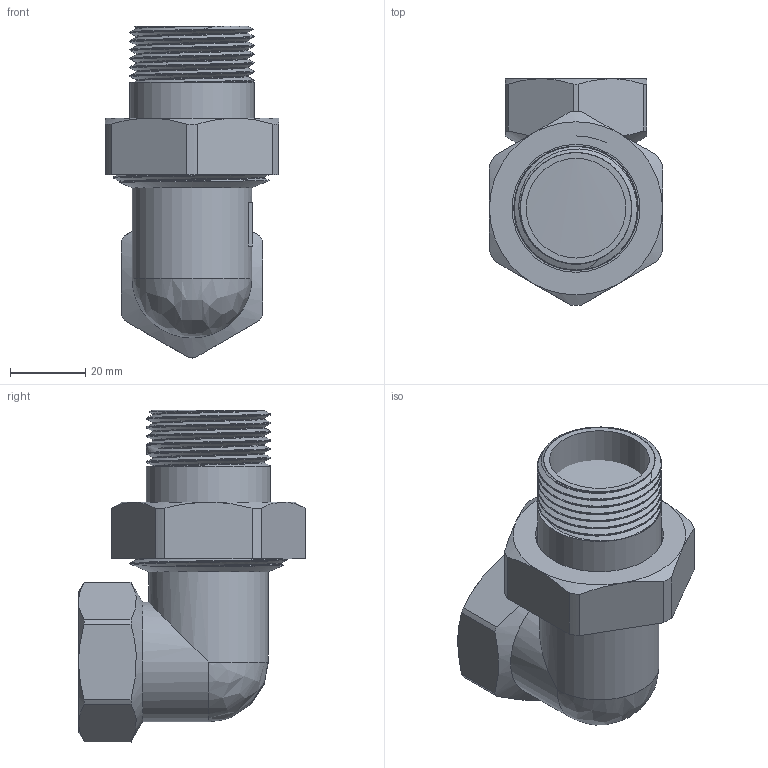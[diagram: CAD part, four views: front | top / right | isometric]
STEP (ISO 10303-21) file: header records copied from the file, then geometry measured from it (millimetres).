
FILE_DESCRIPTION(/* description */ (''),/* implementation_level */ '2;1');
FILE_NAME(/* name */ 'C:\Users\Doom\Desktop\Фадотех\Резьба\SC13 18.03.2020\SC13 18.03.2020.stp',/* time_stamp */ '2022-01-16T20:01:27+02:00',/* author */ ('Doom'),/* organization */ (''),/* preprocessor_version */ 'ST-DEVELOPER v18',/* originating_system */ 'Autodesk Inventor 2020',/* authorisation */ '');
FILE_SCHEMA (('AUTOMOTIVE_DESIGN { 1 0 10303 214 3 1 1 }'));
Length unit declared in the file: millimetre
Products named in the file (4): SC13 18.03.2020; SC12-1; SСОЗ-2; SСОЗ-3
Assembly tree (3 placements, depth 2):
  SC13 18.03.2020
    SC12-1
    SСОЗ-2
    SСОЗ-3
Bounding box: 46 x 60.25 x 88.25 mm (x, y, z)
Volume: 46540.8 mm3; surface area: 38008.2 mm2
Topology: 4 solids, 4 shells, 165 faces, 454 edges, 301 vertices
Faces by surface type: cylinder 61, plane 50, bspline 30, cone 24
Full cylindrical faces by diameter (mm): 26.5 x1, 27.5 x3, 29.576 x2, 29.816 x6, 31 x1, 31.8 x2, 32 x1, 33 x8, 34 x1, 38 x1, 38.475 x1, 38.476 x6, 41.9 x4
Entity records: 18130 total; most frequent: CARTESIAN_POINT 14117, ORIENTED_EDGE 900, DIRECTION 695, EDGE_CURVE 450, VERTEX_POINT 301, AXIS2_PLACEMENT_3D 273, EDGE_LOOP 181, FACE_OUTER_BOUND 165
